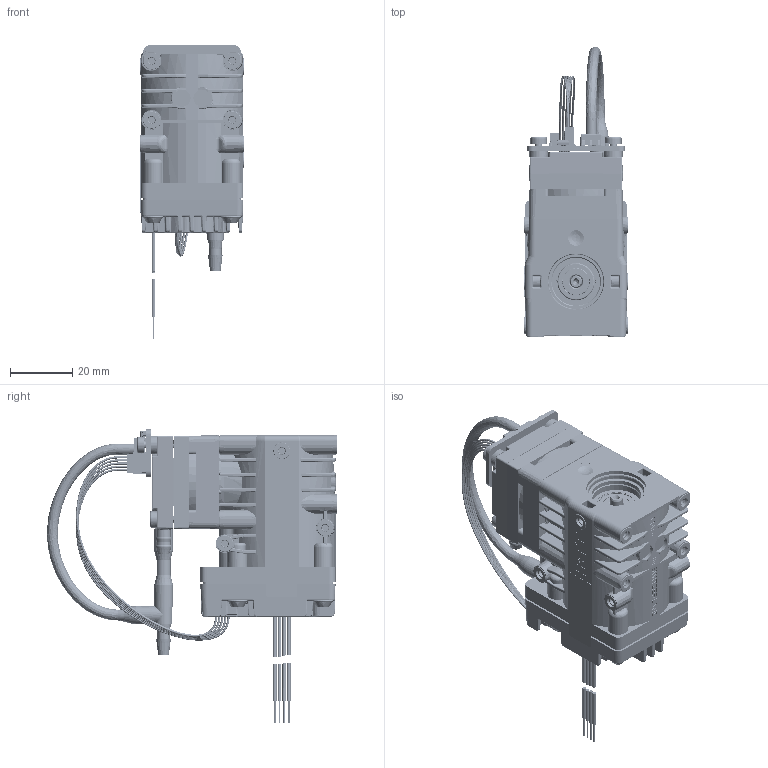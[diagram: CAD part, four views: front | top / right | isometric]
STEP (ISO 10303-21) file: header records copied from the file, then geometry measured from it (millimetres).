
FILE_DESCRIPTION((''),'2;1');
FILE_NAME('NVC830KPDC-BI4_HP','2025-11-26T12:21:15',('LuternauerR'),('KNF Flodos AG, 6210 Sursee, Switzerland'),'CREO PARAMETRIC BY PTC INC, 2024401','CREO PARAMETRIC BY PTC INC, 2024401','');
FILE_SCHEMA(('AP242_MANAGED_MODEL_BASED_3D_ENGINEERING_MIM_LF { 1 0 10303 442 1 1 4 }'));
Products named in the file (1): NVC830KPDC-BI4_HP
Bounding box: 33.4 x 93.36 x 94.36 mm (x, y, z)
Volume: 82919.9 mm3; surface area: 33140.8 mm2
Topology: 18 solids, 21 shells, 5367 faces, 13883 edges, 8578 vertices
Faces by surface type: plane 2055, cylinder 1592, bspline 609, cone 362, torus 334, sphere 273, extrusion 142
Entity records: 384592 total; most frequent: CARTESIAN_POINT 220918, ORIENTED_EDGE 27508, DIRECTION 24238, EDGE_CURVE 13754, VERTEX_POINT 8578, AXIS2_PLACEMENT_3D 8555, VECTOR 7128, LINE 6986
